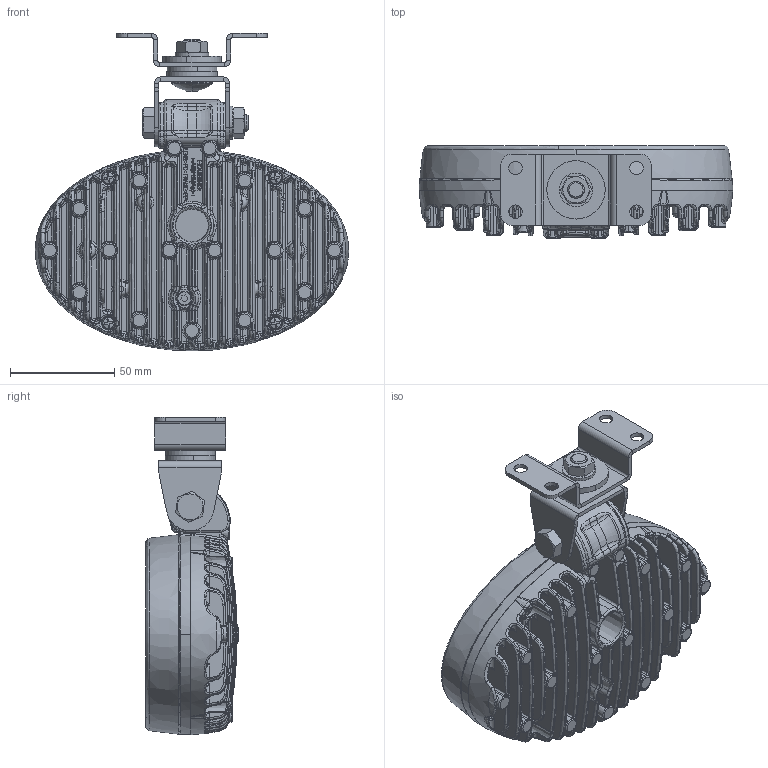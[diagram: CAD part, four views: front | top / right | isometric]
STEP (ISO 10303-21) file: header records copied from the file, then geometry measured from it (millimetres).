
FILE_DESCRIPTION (( 'STEP AP214' ), '1' );
FILE_NAME ('BRYLA_W165.STEP', '2019-02-06T11:49:34', ( '' ), ( '' ), 'SwSTEP 2.0', 'SolidWorks 2013', '' );
FILE_SCHEMA (( 'AUTOMOTIVE_DESIGN' ));
Length unit declared in the file: millimetre
Products named in the file (17): Korpus_W165_V1_1158.00.03; Wkret_W164_1029.00.14; Klosz_W164_V1_BRYLA; Ramka_W164_V1_BRYLA; BRYLA_W165; M4_2_W164_976.00.18; Uchwyt_W164; Podkladka M8_2_W81_683.00.10; Nakretka M8_W81_53.00.27; Podkladka M10_W81_683.00.03; Podkladka M8_W81_683.00.11; Sruba zamkowa M8_W81_683.00.02; Sruba M8_W81_683.00.01; Polowa zawiasu 2Z_W81_683.00.35; Polowa zawiasu C_W81_683.00.33; Amortyzator lewy_W164_V1_1153.00.09; Amortyzator prawy_W164_V1_1153.00.08
Assembly tree (22 placements, depth 3):
  BRYLA_W165
    Ramka_W164_V1_BRYLA
    Klosz_W164_V1_BRYLA
    Wkret_W164_1029.00.14  x4
    Korpus_W165_V1_1158.00.03
    Amortyzator prawy_W164_V1_1153.00.08
    Amortyzator lewy_W164_V1_1153.00.09
    Uchwyt_W164
      Polowa zawiasu C_W81_683.00.33
      Polowa zawiasu 2Z_W81_683.00.35
      Sruba M8_W81_683.00.01
      Sruba zamkowa M8_W81_683.00.02
      Podkladka M8_W81_683.00.11  x2
      Podkladka M10_W81_683.00.03  x2
      Nakretka M8_W81_53.00.27  x2
      Podkladka M8_2_W81_683.00.10
    M4_2_W164_976.00.18
Bounding box: 150.38 x 44.4 x 152.33 mm (x, y, z)
Volume: 339318.6 mm3; surface area: 148528 mm2
Topology: 21 solids, 21 shells, 3614 faces, 8668 edges, 4980 vertices
Faces by surface type: bspline 1593, plane 811, cylinder 418, torus 375, cone 284, sphere 133
Entity records: 172185 total; most frequent: CARTESIAN_POINT 102862, ORIENTED_EDGE 16312, DIRECTION 11619, EDGE_CURVE 8156, VERTEX_POINT 4783, AXIS2_PLACEMENT_3D 4757, EDGE_LOOP 3617, FACE_OUTER_BOUND 3488
